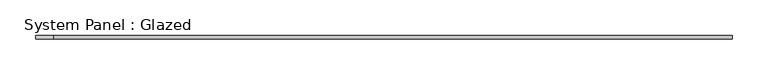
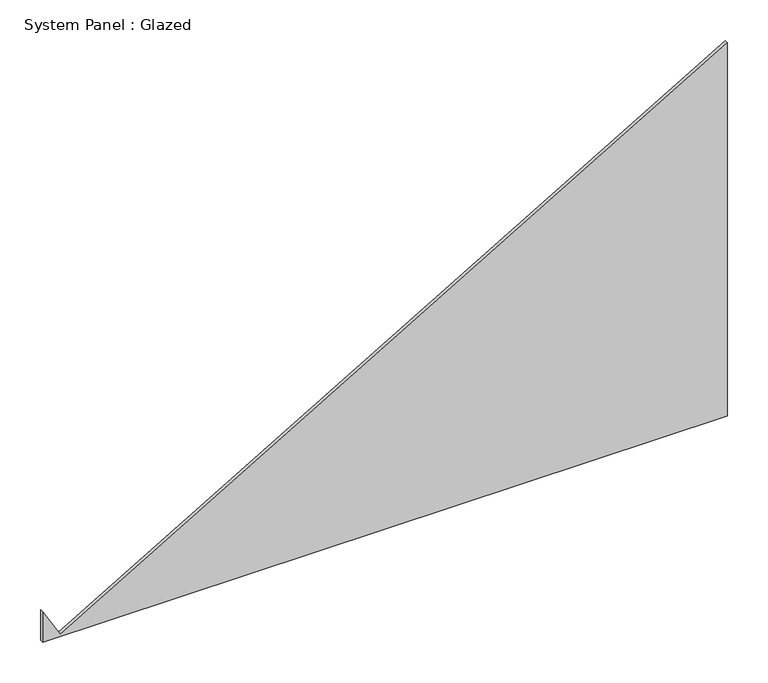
"""IFC4 building model written with IfcOpenShell, lengths in millimetres: plate geometry, System Panel : Glazed."""

import ifcopenshell
import ifcopenshell.guid

model = None  # the IFC model being written
_history = None  # IfcOwnerHistory: only IFC2X3 demands one
_inside = {}  # id of a spatial element -> (the spatial element, [elements in it])
_under = {}  # id of a project, library or spatial element -> (it, [spatial elements below it])
_declared = {}  # id of a project -> (the project, [libraries it declares])
_typed = {}  # id of a type object -> (the type object, [elements of that type])
_made_of = {}  # id of a material, layer set ... -> (it, [elements and type objects made of it])


def new_model(schema):
    """Start an empty IFC model of exactly this schema.

    Asked for "IFC4X3", IfcOpenShell would pick the latest addendum, in which some entities
    have other attributes; the version numbers below select the first issue.
    IFC2X3 requires an IfcOwnerHistory on every rooted entity: one is made here for all.
    """
    global model, _history
    if schema == "IFC4X3":
        model = ifcopenshell.file(schema_version=(4, 3, 0, 0))
    else:
        model = ifcopenshell.file(schema=schema)
    _inside.clear()
    _under.clear()
    _declared.clear()
    _typed.clear()
    _made_of.clear()
    _history = None
    if model.schema == "IFC2X3":
        org = make("IfcOrganization", Name="unknown")
        user = make(
            "IfcPersonAndOrganization",
            ThePerson=make("IfcPerson", FamilyName="unknown"),
            TheOrganization=org,
        )
        app = make(
            "IfcApplication",
            ApplicationDeveloper=org,
            Version="unknown",
            ApplicationFullName="unknown",
            ApplicationIdentifier="unknown",
        )
        _history = make(
            "IfcOwnerHistory",
            OwningUser=user,
            OwningApplication=app,
            ChangeAction="ADDED",
            CreationDate=0,
        )
    return model


def make(cls, **values):
    """One entity of the class cls with the attributes given. An attribute that is None is left unset."""
    return model.create_entity(
        cls, **{name: value for name, value in values.items() if value is not None}
    )


def rooted(cls, **values):
    """An entity with a GlobalId (a new one), such as an element, a storey or a relation."""
    return make(cls, GlobalId=ifcopenshell.guid.new(), OwnerHistory=_history, **values)


def si_unit(unit_type, name, prefix=None):
    """IfcSIUnit, for example si_unit("LENGTHUNIT", "METRE", prefix="MILLI")."""
    return make("IfcSIUnit", UnitType=unit_type, Prefix=prefix, Name=name)


def assignment(units):
    """IfcUnitAssignment: the units of a project."""
    return None if units is None else make("IfcUnitAssignment", Units=units)


def point(xyz):
    """IfcCartesianPoint."""
    return None if xyz is None else make("IfcCartesianPoint", Coordinates=xyz)


def direction(xyz):
    """IfcDirection."""
    return None if xyz is None else make("IfcDirection", DirectionRatios=xyz)


def frame(location, z_axis=None, x_axis=None):
    """IfcAxis2Placement3D, a coordinate frame: its origin and axes. An axis left out is left unset."""
    return make(
        "IfcAxis2Placement3D",
        Location=point(location),
        Axis=direction(z_axis),
        RefDirection=direction(x_axis),
    )


def origin():
    """The frame at (0, 0, 0) with its axes left unset."""
    return frame((0.0, 0.0, 0.0))


def place(relative_to, where):
    """IfcLocalPlacement: puts the frame where relative to a parent placement (None: the world)."""
    return make(
        "IfcLocalPlacement", PlacementRelTo=relative_to, RelativePlacement=where
    )


def context(
    kind, dimensions, precision=None, world=None, true_north=None, identifier=None
):
    """IfcGeometricRepresentationContext, for example the 3D "Model" context."""
    return make(
        "IfcGeometricRepresentationContext",
        ContextIdentifier=identifier,
        ContextType=kind,
        CoordinateSpaceDimension=dimensions,
        Precision=precision,
        WorldCoordinateSystem=world,
        TrueNorth=true_north,
    )


def project(units=None, contexts=None):
    """IfcProject with its units and contexts."""
    return rooted(
        "IfcProject",
        Name="project",
        RepresentationContexts=contexts,
        UnitsInContext=assignment(units),
    )


def spatial(cls, under=None, at=None, **own):
    """A site, building, storey or space (cls), placed at a placement, below another one or the project."""
    s = rooted(cls, ObjectPlacement=at, **own)
    if under is not None:
        _under.setdefault(under.id(), (under, []))[1].append(s)
    return s


def polyline(points):
    """IfcPolyline through the points."""
    return make("IfcPolyline", Points=[point(p) for p in points])


def outline(outer, holes=None, kind="AREA"):
    """IfcArbitraryClosedProfileDef: a profile drawn as a closed curve; with holes, ...WithVoids."""
    if holes is None:
        return make("IfcArbitraryClosedProfileDef", ProfileType=kind, OuterCurve=outer)
    return make(
        "IfcArbitraryProfileDefWithVoids",
        ProfileType=kind,
        OuterCurve=outer,
        InnerCurves=holes,
    )


def extrude(swept, where, along, depth):
    """IfcExtrudedAreaSolid: the profile swept, set in the frame where, extruded along a direction by depth."""
    return make(
        "IfcExtrudedAreaSolid",
        SweptArea=swept,
        Position=where,
        ExtrudedDirection=direction(along),
        Depth=depth,
    )


def shape(context_of_items, identifier, shape_type, items):
    """IfcShapeRepresentation: the items that make up one representation, for example the "Body"."""
    return make(
        "IfcShapeRepresentation",
        ContextOfItems=context_of_items,
        RepresentationIdentifier=identifier,
        RepresentationType=shape_type,
        Items=items,
    )


def source(mapping_origin, context_of_items, identifier, shape_type, items):
    """IfcRepresentationMap: a shape defined once, which mapped items show again and again."""
    return make(
        "IfcRepresentationMap",
        MappingOrigin=mapping_origin,
        MappedRepresentation=shape(context_of_items, identifier, shape_type, items),
    )


def transform(
    local_origin,
    x_axis=None,
    y_axis=None,
    z_axis=None,
    scale=None,
    scale2=None,
    scale3=None,
    uniform=True,
):
    """IfcCartesianTransformationOperator3D, or its non-uniform kind. x_axis, y_axis, z_axis: its Axis1, 2, 3."""
    if uniform:
        return make(
            "IfcCartesianTransformationOperator3D",
            Axis1=direction(x_axis),
            Axis2=direction(y_axis),
            LocalOrigin=point(local_origin),
            Scale=scale,
            Axis3=direction(z_axis),
        )
    return make(
        "IfcCartesianTransformationOperator3DnonUniform",
        Axis1=direction(x_axis),
        Axis2=direction(y_axis),
        LocalOrigin=point(local_origin),
        Scale=scale,
        Axis3=direction(z_axis),
        Scale2=scale2,
        Scale3=scale3,
    )


def mapped(mapping_source, mapping_target):
    """IfcMappedItem: shows the shape of a source again, moved by a transform."""
    return make(
        "IfcMappedItem", MappingSource=mapping_source, MappingTarget=mapping_target
    )


def made_of(thing, what):
    """Note that an element or type object is made of a material, layer set ...; save() writes the relation."""
    if what is not None:
        _made_of.setdefault(what.id(), (what, []))[1].append(thing)
    return thing


def element(
    cls,
    number,
    at=None,
    inside=None,
    cuts=None,
    type_object=None,
    material=None,
    context=None,
    identifier="Body",
    shape_type=None,
    held_by="IfcProductDefinitionShape",
    body=None,
    shapes=None,
    **own,
):
    """One element of the class cls, such as IfcWall. Its Tag is "e" and its number.

    at: its placement. inside: the storey or other place that contains it. cuts: it is an
    opening in that element (IfcRelVoidsElement). A single representation is given by context,
    identifier, shape_type and body (its items); several are given by shapes. held_by: the class
    of the entity that holds the representations. save() writes the other relations.
    """
    e = rooted(cls, Tag="e%d" % number, ObjectPlacement=at, **own)
    if body is not None:
        shapes = [shape(context, identifier, shape_type, body)]
    if shapes is not None:
        e.Representation = make(held_by, Representations=shapes)
    if inside is not None:
        _inside.setdefault(inside.id(), (inside, []))[1].append(e)
    if cuts is not None:
        rooted(
            "IfcRelVoidsElement", RelatingBuildingElement=cuts, RelatedOpeningElement=e
        )
    if type_object is not None:
        _typed.setdefault(type_object.id(), (type_object, []))[1].append(e)
    return made_of(e, material)


def aggregate(whole, parts):
    """IfcRelAggregates: a whole, such as a stair, and the parts it consists of."""
    return rooted("IfcRelAggregates", RelatingObject=whole, RelatedObjects=parts)


def save(model, path):
    """Write the relations noted so far, then the file.

    IfcRelAggregates (storeys below a building ...), IfcRelContainedInSpatialStructure (elements
    in a storey), IfcRelDefinesByType, IfcRelAssociatesMaterial and IfcRelDeclares: one each for
    every whole, place, type object, material and project.
    """
    for whole, parts in _under.values():
        aggregate(whole, parts)
    for where, things in _inside.values():
        rooted(
            "IfcRelContainedInSpatialStructure",
            RelatedElements=things,
            RelatingStructure=where,
        )
    for kind, things in _typed.values():
        rooted("IfcRelDefinesByType", RelatedObjects=things, RelatingType=kind)
    for what, things in _made_of.values():
        rooted("IfcRelAssociatesMaterial", RelatedObjects=things, RelatingMaterial=what)
    for by, libraries in _declared.values():
        rooted("IfcRelDeclares", RelatingContext=by, RelatedDefinitions=libraries)
    model.write(path)


def system_panel_glazed_6534091e(model_context):
    return source(origin(), model_context, "Body", "SweptSolid", [
        extrude(outline(polyline([(0.0, -487.5), (0.0, 487.5), (562.1073408, 487.5), (3.0773896, -462.134795), (46.1657451, -487.5), (0.0, -487.5)])), frame((0.0, -2.5, 0.0), z_axis=(0.0, 1.0, 0.0), x_axis=(0.0, 0.0, 1.0)), (0.0, 0.0, 1.0), 5.0),
    ])


if __name__ == "__main__":
    model = new_model("IFC4")
    model_context = context("Model", 3, world=origin())
    ifc_project = project(units=[si_unit("LENGTHUNIT", "METRE", prefix="MILLI")], contexts=[model_context])
    site = spatial("IfcSite", under=ifc_project)
    building = spatial("IfcBuilding", under=site)
    placement = place(None, origin())
    system_panel_glazed_shape = system_panel_glazed_6534091e(model_context)
    element("IfcPlate", 1, ObjectType="System Panel : Glazed", at=placement, inside=building, context=model_context, shape_type="MappedRepresentation", body=[
        mapped(system_panel_glazed_shape, transform((0.0, 0.0, 0.0), x_axis=(1.0, 0.0, 0.0), y_axis=(0.0, 1.0, 0.0), z_axis=(0.0, 0.0, 1.0))),
    ])
    save(model, "model.ifc")
